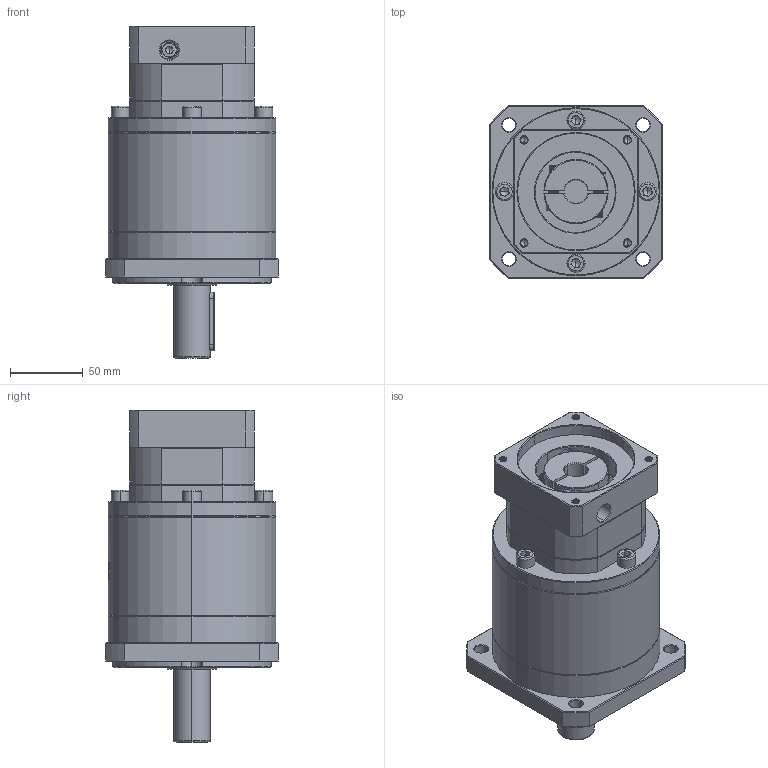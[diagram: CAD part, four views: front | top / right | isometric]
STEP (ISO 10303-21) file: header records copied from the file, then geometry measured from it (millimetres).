
FILE_DESCRIPTION (( 'STEP AP214' ), '1' );
FILE_NAME ('ZF120A-D25-L3-P2-16-80-100-M6.step', '2023-08-27T05:58:15', ( '' ), ( '' ), 'SwSTEP 2.0', 'SolidWorks 2016', '' );
FILE_SCHEMA (( 'AUTOMOTIVE_DESIGN' ));
Length unit declared in the file: millimetre
Products named in the file (1): ZF120A-D25-L3-P2-16-80-100-M6
Bounding box: 118 x 118 x 227.5 mm (x, y, z)
Volume: 1563379.6 mm3; surface area: 137990.3 mm2
Topology: 5 solids, 6 shells, 2211 faces, 5880 edges, 3768 vertices
Faces by surface type: plane 1064, bspline 419, cylinder 402, cone 311, torus 15
Entity records: 121039 total; most frequent: CARTESIAN_POINT 47208, ORIENTED_EDGE 11700, DIRECTION 8429, EDGE_CURVE 5850, VERTEX_POINT 3768, VECTOR 3097, LINE 3097, AXIS2_PLACEMENT_3D 2666
